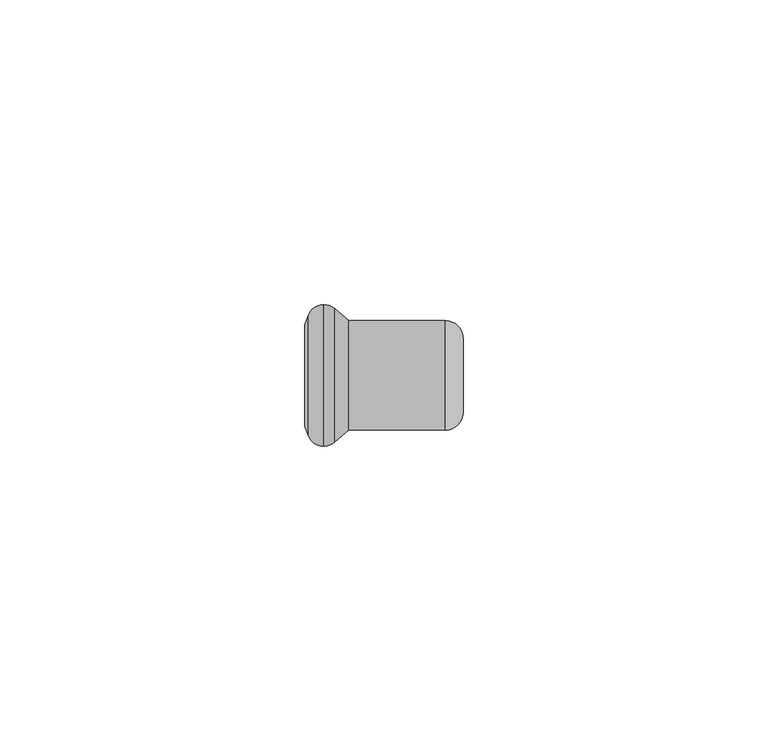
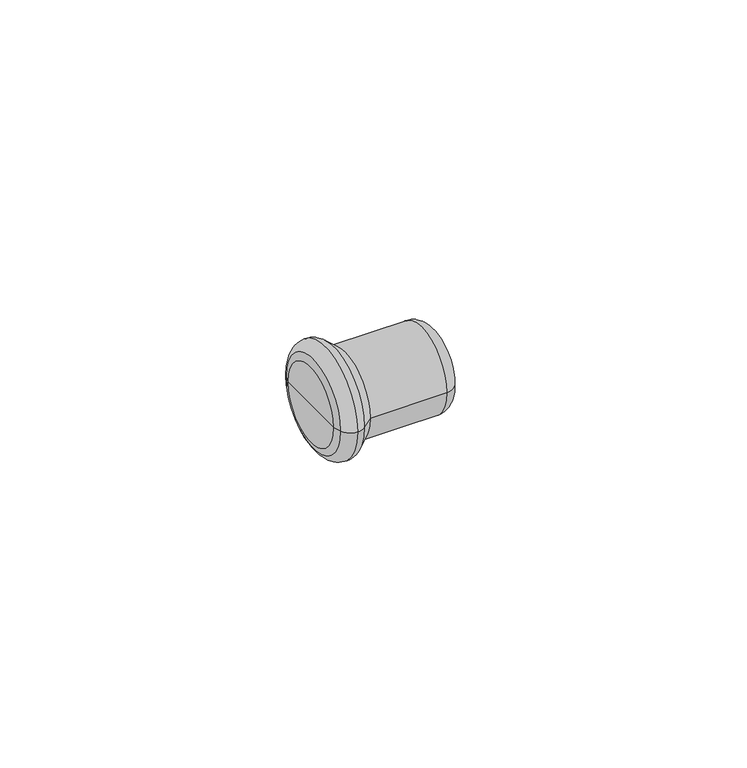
"""IFC4 building model written with IfcOpenShell, lengths in millimetres: pipe fitting geometry, KAN-therm Steel korek : KAN-therm Steel korek."""

from ifc_helpers import new_model, si_unit, point, frame, origin, place, context, project, spatial, polyline, circle_curve, ellipse_curve, trimmed, source, transform, mapped, element, save
from ifc_brep_helpers import plane_surface, cylinder_surface, revolved_surface, advanced_brep


def pipe_fitting_2a5535a6(model_context):
    return source(origin(), model_context, "Body", "AdvancedBrep", [
        advanced_brep(
        [(7.2161908, -9.0, 0.0), (7.2161908, 9.0, 0.0), (23.0, 9.0, 0.0), (23.0, -9.0, 0.0), (4.9077373, -10.9370225, 0.0), (4.9077373, 10.9370225, 0.0), (3.1078722, -11.625, 0.0), (3.1078722, 11.625, 0.0), (0.567948, -9.8484544, 0.0), (0.567948, 9.8484544, 0.0), (0.0, -8.2880302, 0.0), (0.0, 8.2880302, 0.0), (0.0, 0.0, 0.0), (26.0, -6.0, 0.0), (26.0, 6.0, 0.0), (26.0, 0.0, 0.0)],
        [
            (0, 1, circle_curve(frame((7.2161908, 0.0, 0.0), z_axis=(1.0, 0.0, 0.0), x_axis=(0.0, 1.0, 0.0)), 9.0)),
            (1, 2),
            (2, 3, circle_curve(frame((23.0, 0.0, 0.0), z_axis=(-1.0, 0.0, 0.0), x_axis=(0.0, 1.0, 0.0)), 9.0)),
            (3, 0),
            (1, 0, circle_curve(frame((7.2161908, 0.0, 0.0), z_axis=(1.0, 0.0, 0.0), x_axis=(0.0, 1.0, 0.0)), 9.0)),
            (3, 2, circle_curve(frame((23.0, 0.0, 0.0), z_axis=(-1.0, 0.0, 0.0), x_axis=(0.0, 1.0, 0.0)), 9.0)),
            (4, 5, circle_curve(frame((4.9077373, 0.0, 0.0), z_axis=(1.0, 0.0, 0.0), x_axis=(0.0, 1.0, 0.0)), 10.9370225)),
            (5, 1),
            (0, 4),
            (5, 4, circle_curve(frame((4.9077373, 0.0, 0.0), z_axis=(1.0, 0.0, 0.0), x_axis=(0.0, 1.0, 0.0)), 10.9370225)),
            (6, 7, circle_curve(frame((3.1078722, 0.0, 0.0), z_axis=(1.0, 0.0, 0.0), x_axis=(0.0, 1.0, 0.0)), 11.625)),
            (7, 5, circle_curve(frame((3.1064951, 8.9230333, 0.0), z_axis=(0.0, 0.0, -1.0), x_axis=(1.0, 0.0, 0.0)), 2.701967)),
            (4, 6, circle_curve(frame((3.1064951, -8.9230333, 0.0), z_axis=(0.0, 0.0, -1.0), x_axis=(1.0, 0.0, 0.0)), 2.701967)),
            (7, 6, circle_curve(frame((3.1078722, 0.0, 0.0), z_axis=(1.0, 0.0, 0.0), x_axis=(0.0, 1.0, 0.0)), 11.625)),
            (8, 9, circle_curve(frame((0.567948, 0.0, 0.0), z_axis=(1.0, 0.0, 0.0), x_axis=(0.0, 1.0, 0.0)), 9.8484544)),
            (9, 7, circle_curve(frame((3.10512, 8.9249993, 0.0), z_axis=(0.0, 0.0, -1.0), x_axis=(1.0, 0.0, 0.0)), 2.7000021)),
            (6, 8, circle_curve(frame((3.10512, -8.9249993, 0.0), z_axis=(0.0, 0.0, -1.0), x_axis=(1.0, 0.0, 0.0)), 2.7000021)),
            (9, 8, circle_curve(frame((0.567948, 0.0, 0.0), z_axis=(1.0, 0.0, 0.0), x_axis=(0.0, 1.0, 0.0)), 9.8484544)),
            (10, 11, circle_curve(frame((0.0, 0.0, 0.0), z_axis=(1.0, 0.0, 0.0), x_axis=(0.0, 1.0, 0.0)), 8.2880302)),
            (11, 9),
            (8, 10),
            (11, 10, circle_curve(frame((0.0, 0.0, 0.0), z_axis=(1.0, 0.0, 0.0), x_axis=(0.0, 1.0, 0.0)), 8.2880302)),
            (12, 11),
            (10, 12),
            (13, 14, circle_curve(frame((26.0, 0.0, 0.0), z_axis=(1.0, 0.0, 0.0), x_axis=(0.0, 1.0, 0.0)), 6.0)),
            (14, 15),
            (15, 13),
            (14, 13, circle_curve(frame((26.0, 0.0, 0.0), z_axis=(1.0, 0.0, 0.0), x_axis=(0.0, 1.0, 0.0)), 6.0)),
            (2, 14, circle_curve(frame((23.0, 6.0, 0.0), z_axis=(0.0, 0.0, -1.0), x_axis=(1.0, 0.0, 0.0)), 3.0)),
            (13, 3, circle_curve(frame((23.0, -6.0, 0.0), z_axis=(0.0, 0.0, -1.0), x_axis=(1.0, 0.0, 0.0)), 3.0)),
        ],
        [
            cylinder_surface(frame((1364.742668, 0.0, 0.0), z_axis=(-1.0, 0.0, 0.0), x_axis=(0.0, 1.0, 0.0)), 9.0),
            revolved_surface(polyline([(7.2161908, 9.0, 0.0), (4.9077373, 10.9370225, 0.0)]), (1364.742668, 0.0, 0.0), (-1.0, 0.0, 0.0)),
            revolved_surface(trimmed(ellipse_curve(frame((3.1064951, 8.9230333, 0.0), z_axis=(0.0, 0.0, 1.0), x_axis=(1.0, 0.0, 0.0)), 2.701967, 2.701967), [point((4.9077373, 10.9370225, 0.0))], [point((3.1078722, 11.625, 0.0))], True, "CARTESIAN"), (1364.742668, 0.0, 0.0), (-1.0, 0.0, 0.0)),
            revolved_surface(trimmed(ellipse_curve(frame((3.10512, 8.9249993, 0.0), z_axis=(0.0, 0.0, 1.0), x_axis=(1.0, 0.0, 0.0)), 2.7000021, 2.7000021), [point((3.1078722, 11.625, 0.0))], [point((0.567948, 9.8484544, 0.0))], True, "CARTESIAN"), (1364.742668, 0.0, 0.0), (-1.0, 0.0, 0.0)),
            revolved_surface(polyline([(0.567948, 9.8484544, 0.0), (0.0, 8.2880302, 0.0)]), (1364.742668, 0.0, 0.0), (-1.0, 0.0, 0.0)),
            plane_surface(frame((0.0, 0.0, 0.0), z_axis=(-1.0, 0.0, 0.0), x_axis=(0.0, 1.0, 0.0))),
            plane_surface(frame((26.0, 0.0, 0.0), z_axis=(1.0, 0.0, 0.0), x_axis=(0.0, 1.0, 0.0))),
            revolved_surface(trimmed(ellipse_curve(frame((23.0, 6.0, 0.0), z_axis=(0.0, 0.0, 1.0), x_axis=(1.0, 0.0, 0.0)), 3.0, 3.0), [point((26.0, 6.0, 0.0))], [point((23.0, 9.0, 0.0))], True, "CARTESIAN"), (1364.742668, 0.0, 0.0), (-1.0, 0.0, 0.0)),
        ],
        [
            (0, [[1, 2, 3, 4]]),
            (0, [[5, -4, 6, -2]]),
            (1, [[7, 8, -1, 9]]),
            (1, [[10, -9, -5, -8]]),
            (2, [[11, 12, -7, 13]]),
            (2, [[14, -13, -10, -12]]),
            (3, [[15, 16, -11, 17]]),
            (3, [[18, -17, -14, -16]]),
            (4, [[19, 20, -15, 21]]),
            (4, [[22, -21, -18, -20]]),
            (5, [[23, -19, 24]]),
            (5, [[-24, -22, -23]]),
            (6, [[25, 26, 27]]),
            (6, [[28, -27, -26]]),
            (7, [[-3, 29, -25, 30]]),
            (7, [[-6, -30, -28, -29]]),
        ],
    ),
    ])


if __name__ == "__main__":
    model = new_model("IFC4")
    model_context = context("Model", 3, world=origin())
    ifc_project = project(units=[si_unit("LENGTHUNIT", "METRE", prefix="MILLI")], contexts=[model_context])
    site = spatial("IfcSite", under=ifc_project)
    building = spatial("IfcBuilding", under=site)
    placement = place(None, origin())
    pipe_fitting_shape = pipe_fitting_2a5535a6(model_context)
    element("IfcPipeFitting", 1, ObjectType="KAN-therm Steel korek : KAN-therm Steel korek", at=placement, inside=building, context=model_context, shape_type="MappedRepresentation", body=[
        mapped(pipe_fitting_shape, transform((0.0, 0.0, 0.0), x_axis=(1.0, 0.0, 0.0), y_axis=(0.0, 1.0, 0.0), z_axis=(0.0, 0.0, 1.0))),
    ])
    save(model, "model.ifc")
